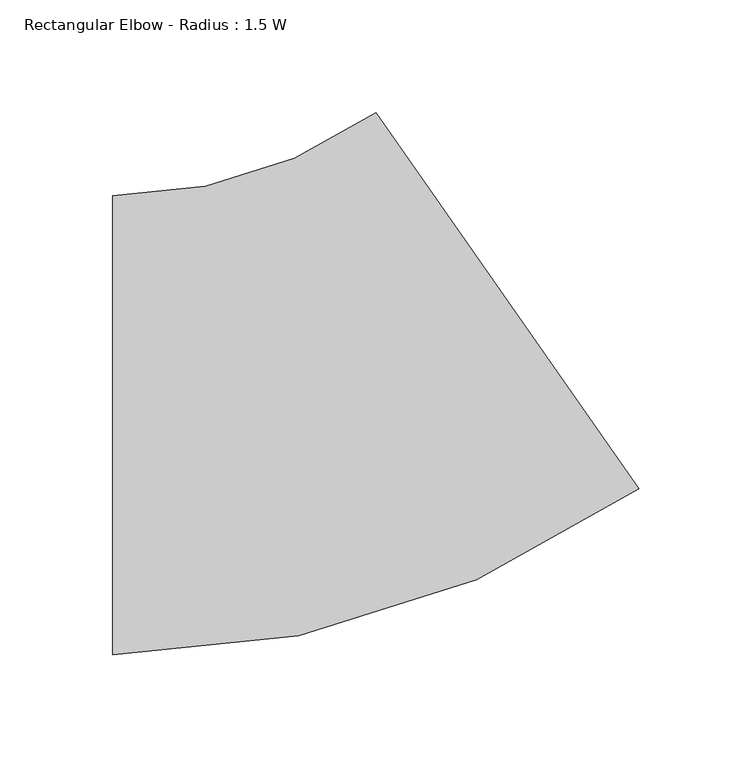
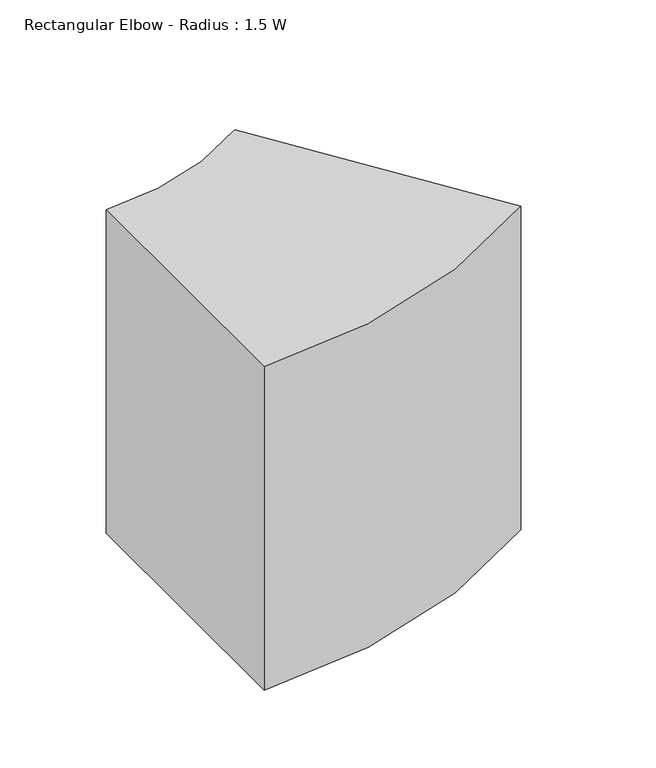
"""IFC4 building model written with IfcOpenShell, lengths in millimetres: duct fitting geometry, Rectangular Elbow - Radius : 1.5 W."""

from ifc_helpers import new_model, si_unit, point, frame, frame_2d, origin, place, context, project, spatial, polyline, circle_curve, trimmed, segment, composite_curve, outline, extrude, source, transform, mapped, element, save


def rectangular_elbow_radius_1_5_w_e6937f48(model_context):
    return source(origin(), model_context, "Body", "SweptSolid", [
        extrude(outline(composite_curve([segment(trimmed(circle_curve(frame_2d((-96.1030709, 304.8)), 406.4), [point((136.9983929, -28.1033908))], [point((-96.1030709, -101.6))], False, "CARTESIAN"), True, "CONTINUOUS"), segment(polyline([(-96.1030709, -101.6), (-96.1030709, 101.6)]), True, "CONTINUOUS"), segment(trimmed(circle_curve(frame_2d((-96.1030709, 304.8)), 203.2), [point((-96.1030709, 101.6))], [point((20.447661, 138.3483046))], True, "CARTESIAN"), True, "CONTINUOUS"), segment(polyline([(20.447661, 138.3483046), (136.9983929, -28.1033908)]), True, "CONTINUOUS")], self_intersect=False)), frame((0.0, 0.0, -127.0), z_axis=(0.0, 0.0, 1.0), x_axis=(1.0, 0.0, 0.0)), (0.0, 0.0, 1.0), 254.0),
    ])


if __name__ == "__main__":
    model = new_model("IFC4")
    model_context = context("Model", 3, world=origin())
    ifc_project = project(units=[si_unit("LENGTHUNIT", "METRE", prefix="MILLI")], contexts=[model_context])
    site = spatial("IfcSite", under=ifc_project)
    building = spatial("IfcBuilding", under=site)
    placement = place(None, origin())
    rectangular_elbow_radius_1_5_w_shape = rectangular_elbow_radius_1_5_w_e6937f48(model_context)
    element("IfcDuctFitting", 1, ObjectType="Rectangular Elbow - Radius : 1.5 W", at=placement, inside=building, context=model_context, shape_type="MappedRepresentation", body=[
        mapped(rectangular_elbow_radius_1_5_w_shape, transform((0.0, 0.0, 0.0), x_axis=(1.0, 0.0, 0.0), y_axis=(0.0, 1.0, 0.0), z_axis=(0.0, 0.0, 1.0))),
    ])
    save(model, "model.ifc")
